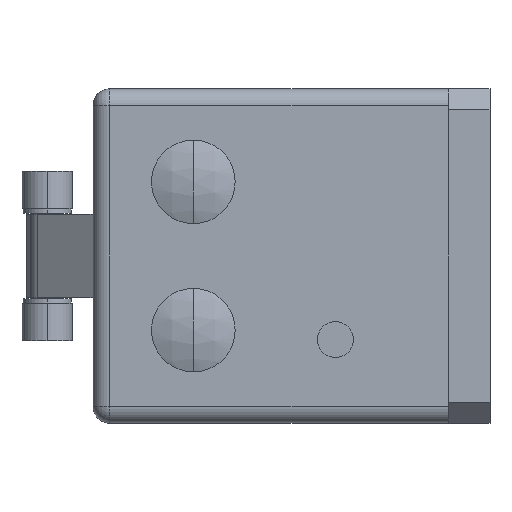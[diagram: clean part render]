
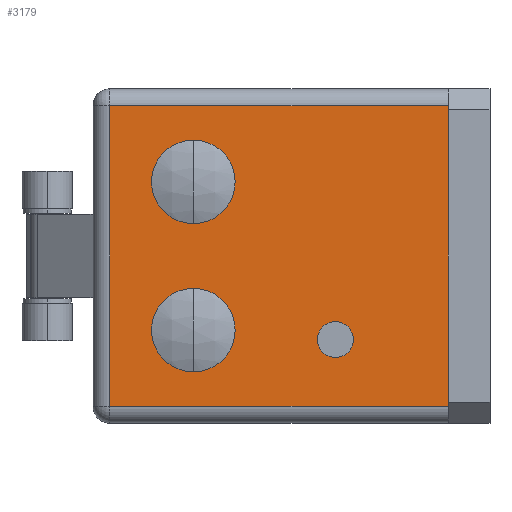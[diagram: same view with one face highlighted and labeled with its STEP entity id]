
A CAD part, left-side view. The second image highlights one B-rep face of the part: STEP entity #3179.
In plain terms, the highlighted planar face has unit normal (-1, 0, 0).
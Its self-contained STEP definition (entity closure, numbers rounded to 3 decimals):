
#2662 = EDGE_CURVE ( 'NONE', #2663, #2664, #7640, .T. ) ;
#2663 = VERTEX_POINT ( 'NONE', #7635 ) ;
#2664 = VERTEX_POINT ( 'NONE', #7634 ) ;
#2667 = VERTEX_POINT ( 'NONE', #7691 ) ;
#2674 = VERTEX_POINT ( 'NONE', #7679 ) ;
#2676 = EDGE_CURVE ( 'NONE', #2674, #2667, #7678, .T. ) ;
#2729 = EDGE_CURVE ( 'NONE', #2731, #2732, #7251, .T. ) ;
#2731 = VERTEX_POINT ( 'NONE', #7818 ) ;
#2732 = VERTEX_POINT ( 'NONE', #7817 ) ;
#3179 = ADVANCED_FACE ( 'NONE', ( #8632, #8631, #8630, #8629 ), #8628, .F. ) ;
#3180 = EDGE_LOOP ( 'NONE', ( #3214, #3257 ) ) ;
#3206 = EDGE_LOOP ( 'NONE', ( #3266, #3245 ) ) ;
#3207 = EDGE_CURVE ( 'NONE', #2732, #2731, #8705, .T. ) ;
#3212 = EDGE_LOOP ( 'NONE', ( #3258, #3246, #3241, #3252 ) ) ;
#3213 = EDGE_CURVE ( 'NONE', #3256, #3251, #8695, .T. ) ;
#3214 = ORIENTED_EDGE ( 'NONE', *, *, #3244, .F. ) ;
#3240 = EDGE_CURVE ( 'NONE', #3251, #3265, #8715, .T. ) ;
#3241 = ORIENTED_EDGE ( 'NONE', *, *, #3242, .T. ) ;
#3242 = EDGE_CURVE ( 'NONE', #3265, #3243, #8775, .T. ) ;
#3243 = VERTEX_POINT ( 'NONE', #8771 ) ;
#3244 = EDGE_CURVE ( 'NONE', #2667, #2674, #8770, .T. ) ;
#3245 = ORIENTED_EDGE ( 'NONE', *, *, #3207, .F. ) ;
#3246 = ORIENTED_EDGE ( 'NONE', *, *, #3240, .T. ) ;
#3251 = VERTEX_POINT ( 'NONE', #8754 ) ;
#3252 = ORIENTED_EDGE ( 'NONE', *, *, #3253, .T. ) ;
#3253 = EDGE_CURVE ( 'NONE', #3243, #3256, #8753, .T. ) ;
#3254 = EDGE_LOOP ( 'NONE', ( #3255, #3267 ) ) ;
#3255 = ORIENTED_EDGE ( 'NONE', *, *, #2662, .F. ) ;
#3256 = VERTEX_POINT ( 'NONE', #8749 ) ;
#3257 = ORIENTED_EDGE ( 'NONE', *, *, #2676, .F. ) ;
#3258 = ORIENTED_EDGE ( 'NONE', *, *, #3213, .T. ) ;
#3265 = VERTEX_POINT ( 'NONE', #8808 ) ;
#3266 = ORIENTED_EDGE ( 'NONE', *, *, #2729, .F. ) ;
#3267 = ORIENTED_EDGE ( 'NONE', *, *, #3268, .F. ) ;
#3268 = EDGE_CURVE ( 'NONE', #2664, #2663, #8806, .T. ) ;
#6211 = DIRECTION ( 'NONE',  ( 0., 0., -1. ) ) ;
#6727 = CARTESIAN_POINT ( 'NONE',  ( 11., 71., 22.25 ) ) ;
#7251 = CIRCLE ( 'NONE', #7507, 10. ) ;
#7507 = AXIS2_PLACEMENT_3D ( 'NONE', #6727, #7757, #6211 ) ;
#7634 = CARTESIAN_POINT ( 'NONE',  ( 11., 71., 67.75 ) ) ;
#7635 = CARTESIAN_POINT ( 'NONE',  ( 11., 71., 47.75 ) ) ;
#7636 = DIRECTION ( 'NONE',  ( 0., 0., -1. ) ) ;
#7637 = DIRECTION ( 'NONE',  ( -1., 0., 0. ) ) ;
#7638 = CARTESIAN_POINT ( 'NONE',  ( 11., 71., 57.75 ) ) ;
#7639 = AXIS2_PLACEMENT_3D ( 'NONE', #7638, #7637, #7636 ) ;
#7640 = CIRCLE ( 'NONE', #7639, 10. ) ;
#7674 = DIRECTION ( 'NONE',  ( 0., 0., 1. ) ) ;
#7675 = DIRECTION ( 'NONE',  ( -1., 0., 0. ) ) ;
#7676 = CARTESIAN_POINT ( 'NONE',  ( 11., 37., 20. ) ) ;
#7677 = AXIS2_PLACEMENT_3D ( 'NONE', #7676, #7675, #7674 ) ;
#7678 = CIRCLE ( 'NONE', #7677, 4.3 ) ;
#7679 = CARTESIAN_POINT ( 'NONE',  ( 11., 37., 15.7 ) ) ;
#7691 = CARTESIAN_POINT ( 'NONE',  ( 11., 37., 24.3 ) ) ;
#7757 = DIRECTION ( 'NONE',  ( -1., 0., 0. ) ) ;
#7817 = CARTESIAN_POINT ( 'NONE',  ( 11., 71., 32.25 ) ) ;
#7818 = CARTESIAN_POINT ( 'NONE',  ( 11., 71., 12.25 ) ) ;
#8624 = DIRECTION ( 'NONE',  ( 0., 0., -1. ) ) ;
#8625 = DIRECTION ( 'NONE',  ( 1., 0., 0. ) ) ;
#8626 = CARTESIAN_POINT ( 'NONE',  ( 11., 95., 0. ) ) ;
#8627 = AXIS2_PLACEMENT_3D ( 'NONE', #8626, #8625, #8624 ) ;
#8628 = PLANE ( 'NONE',  #8627 ) ;
#8629 = FACE_BOUND ( 'NONE', #3254, .T. ) ;
#8630 = FACE_OUTER_BOUND ( 'NONE', #3212, .T. ) ;
#8631 = FACE_BOUND ( 'NONE', #3206, .T. ) ;
#8632 = FACE_BOUND ( 'NONE', #3180, .T. ) ;
#8692 = DIRECTION ( 'NONE',  ( 0., 0., -1. ) ) ;
#8693 = VECTOR ( 'NONE', #8692, 1000. ) ;
#8694 = CARTESIAN_POINT ( 'NONE',  ( 11., 91., 0. ) ) ;
#8695 = LINE ( 'NONE', #8694, #8693 ) ;
#8701 = DIRECTION ( 'NONE',  ( 0., 0., -1. ) ) ;
#8702 = DIRECTION ( 'NONE',  ( -1., 0., 0. ) ) ;
#8703 = CARTESIAN_POINT ( 'NONE',  ( 11., 71., 22.25 ) ) ;
#8704 = AXIS2_PLACEMENT_3D ( 'NONE', #8703, #8702, #8701 ) ;
#8705 = CIRCLE ( 'NONE', #8704, 10. ) ;
#8712 = DIRECTION ( 'NONE',  ( 0., -1., 0. ) ) ;
#8713 = VECTOR ( 'NONE', #8712, 1000. ) ;
#8714 = CARTESIAN_POINT ( 'NONE',  ( 11., 95., 4. ) ) ;
#8715 = LINE ( 'NONE', #8714, #8713 ) ;
#8749 = CARTESIAN_POINT ( 'NONE',  ( 11., 91., 76. ) ) ;
#8750 = DIRECTION ( 'NONE',  ( 0., 1., 0. ) ) ;
#8751 = VECTOR ( 'NONE', #8750, 1000. ) ;
#8752 = CARTESIAN_POINT ( 'NONE',  ( 11., 95., 76. ) ) ;
#8753 = LINE ( 'NONE', #8752, #8751 ) ;
#8754 = CARTESIAN_POINT ( 'NONE',  ( 11., 91., 4. ) ) ;
#8766 = DIRECTION ( 'NONE',  ( 0., 0., 1. ) ) ;
#8767 = DIRECTION ( 'NONE',  ( -1., 0., 0. ) ) ;
#8768 = CARTESIAN_POINT ( 'NONE',  ( 11., 37., 20. ) ) ;
#8769 = AXIS2_PLACEMENT_3D ( 'NONE', #8768, #8767, #8766 ) ;
#8770 = CIRCLE ( 'NONE', #8769, 4.3 ) ;
#8771 = CARTESIAN_POINT ( 'NONE',  ( 11., 10., 76. ) ) ;
#8772 = DIRECTION ( 'NONE',  ( 0., 0., 1. ) ) ;
#8773 = VECTOR ( 'NONE', #8772, 1000. ) ;
#8774 = CARTESIAN_POINT ( 'NONE',  ( 11., 10., 0. ) ) ;
#8775 = LINE ( 'NONE', #8774, #8773 ) ;
#8802 = DIRECTION ( 'NONE',  ( 0., 0., -1. ) ) ;
#8803 = DIRECTION ( 'NONE',  ( -1., 0., 0. ) ) ;
#8804 = CARTESIAN_POINT ( 'NONE',  ( 11., 71., 57.75 ) ) ;
#8805 = AXIS2_PLACEMENT_3D ( 'NONE', #8804, #8803, #8802 ) ;
#8806 = CIRCLE ( 'NONE', #8805, 10. ) ;
#8808 = CARTESIAN_POINT ( 'NONE',  ( 11., 10., 4. ) ) ;
